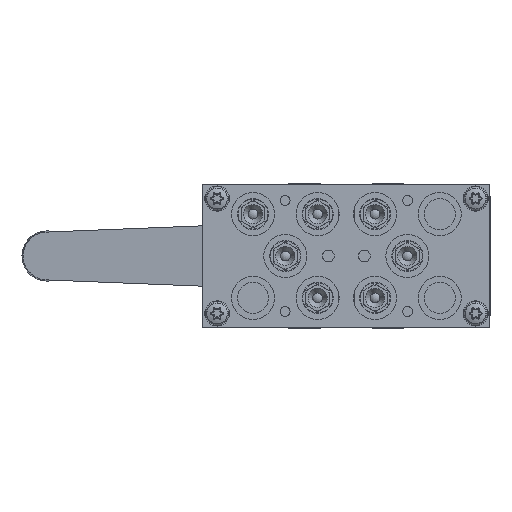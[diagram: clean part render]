
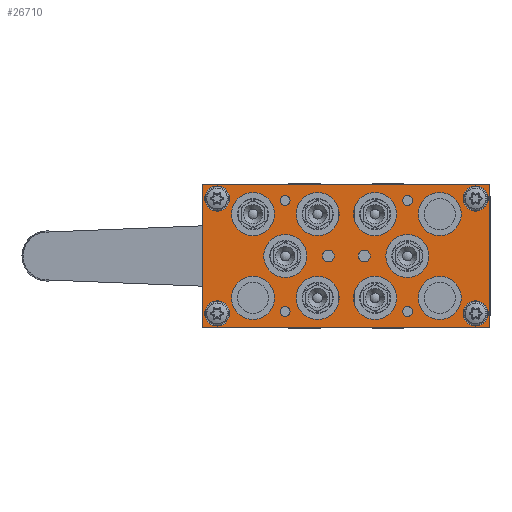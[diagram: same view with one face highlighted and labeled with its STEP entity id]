
A CAD part, left-side view. The second image highlights one B-rep face of the part: STEP entity #26710.
In plain terms, the highlighted planar face has unit normal (-1, 0, 0) as drawn and (0, 0, 1) by its records, which use the part's own axes.
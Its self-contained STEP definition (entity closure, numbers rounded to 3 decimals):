
#2523=LINE('',#63669,#3590);
#2527=LINE('',#63680,#3594);
#2531=LINE('',#63825,#3598);
#2532=LINE('',#63826,#3599);
#3590=VECTOR('',#33106,1000.);
#3594=VECTOR('',#33114,1000.);
#3598=VECTOR('',#33274,1000.);
#3599=VECTOR('',#33275,1000.);
#4036=PLANE('',#28617);
#9184=ORIENTED_EDGE('',*,*,#12024,.F.);
#9185=ORIENTED_EDGE('',*,*,#12025,.F.);
#9186=ORIENTED_EDGE('',*,*,#12026,.F.);
#9187=ORIENTED_EDGE('',*,*,#12027,.F.);
#9188=ORIENTED_EDGE('',*,*,#12028,.F.);
#9189=ORIENTED_EDGE('',*,*,#12029,.F.);
#9190=ORIENTED_EDGE('',*,*,#12030,.T.);
#9191=ORIENTED_EDGE('',*,*,#12031,.T.);
#9192=ORIENTED_EDGE('',*,*,#12032,.T.);
#9193=ORIENTED_EDGE('',*,*,#12033,.T.);
#9194=ORIENTED_EDGE('',*,*,#12034,.T.);
#9195=ORIENTED_EDGE('',*,*,#12035,.T.);
#9196=ORIENTED_EDGE('',*,*,#12036,.T.);
#9197=ORIENTED_EDGE('',*,*,#11966,.T.);
#9198=ORIENTED_EDGE('',*,*,#12037,.T.);
#9199=ORIENTED_EDGE('',*,*,#11971,.T.);
#9200=ORIENTED_EDGE('',*,*,#12038,.T.);
#9201=ORIENTED_EDGE('',*,*,#12039,.T.);
#9202=ORIENTED_EDGE('',*,*,#12040,.T.);
#9203=ORIENTED_EDGE('',*,*,#12041,.T.);
#9204=ORIENTED_EDGE('',*,*,#12042,.T.);
#9205=ORIENTED_EDGE('',*,*,#12043,.T.);
#9206=ORIENTED_EDGE('',*,*,#12044,.T.);
#9207=ORIENTED_EDGE('',*,*,#12045,.T.);
#11966=EDGE_CURVE('',#13704,#13703,#2523,.T.);
#11971=EDGE_CURVE('',#13709,#13708,#2527,.T.);
#12024=EDGE_CURVE('',#13759,#13759,#14612,.T.);
#12025=EDGE_CURVE('',#13760,#13760,#14613,.T.);
#12026=EDGE_CURVE('',#13761,#13761,#14614,.T.);
#12027=EDGE_CURVE('',#13762,#13762,#14615,.T.);
#12028=EDGE_CURVE('',#13763,#13763,#14616,.T.);
#12029=EDGE_CURVE('',#13764,#13764,#14617,.T.);
#12030=EDGE_CURVE('',#13765,#13765,#14618,.T.);
#12031=EDGE_CURVE('',#13766,#13766,#14619,.T.);
#12032=EDGE_CURVE('',#13767,#13767,#14620,.T.);
#12033=EDGE_CURVE('',#13768,#13768,#14621,.T.);
#12034=EDGE_CURVE('',#13769,#13769,#14622,.T.);
#12035=EDGE_CURVE('',#13770,#13770,#14623,.T.);
#12036=EDGE_CURVE('',#13771,#13771,#14624,.T.);
#12037=EDGE_CURVE('',#13703,#13709,#2531,.T.);
#12038=EDGE_CURVE('',#13708,#13704,#2532,.T.);
#12039=EDGE_CURVE('',#13772,#13772,#14625,.T.);
#12040=EDGE_CURVE('',#13773,#13773,#14626,.T.);
#12041=EDGE_CURVE('',#13774,#13774,#14627,.T.);
#12042=EDGE_CURVE('',#13775,#13775,#14628,.T.);
#12043=EDGE_CURVE('',#13776,#13776,#14629,.T.);
#12044=EDGE_CURVE('',#13777,#13777,#14630,.T.);
#12045=EDGE_CURVE('',#13778,#13778,#14631,.T.);
#13703=VERTEX_POINT('',#63668);
#13704=VERTEX_POINT('',#63670);
#13708=VERTEX_POINT('',#63679);
#13709=VERTEX_POINT('',#63681);
#13759=VERTEX_POINT('',#63800);
#13760=VERTEX_POINT('',#63802);
#13761=VERTEX_POINT('',#63804);
#13762=VERTEX_POINT('',#63806);
#13763=VERTEX_POINT('',#63808);
#13764=VERTEX_POINT('',#63810);
#13765=VERTEX_POINT('',#63812);
#13766=VERTEX_POINT('',#63814);
#13767=VERTEX_POINT('',#63816);
#13768=VERTEX_POINT('',#63818);
#13769=VERTEX_POINT('',#63820);
#13770=VERTEX_POINT('',#63822);
#13771=VERTEX_POINT('',#63824);
#13772=VERTEX_POINT('',#63828);
#13773=VERTEX_POINT('',#63830);
#13774=VERTEX_POINT('',#63832);
#13775=VERTEX_POINT('',#63834);
#13776=VERTEX_POINT('',#63836);
#13777=VERTEX_POINT('',#63838);
#13778=VERTEX_POINT('',#63840);
#14612=CIRCLE('',#28618,2.067);
#14613=CIRCLE('',#28619,2.067);
#14614=CIRCLE('',#28620,2.067);
#14615=CIRCLE('',#28621,2.067);
#14616=CIRCLE('',#28622,2.459);
#14617=CIRCLE('',#28623,2.459);
#14618=CIRCLE('',#28624,9.);
#14619=CIRCLE('',#28625,9.);
#14620=CIRCLE('',#28626,9.);
#14621=CIRCLE('',#28627,9.);
#14622=CIRCLE('',#28628,9.);
#14623=CIRCLE('',#28629,5.25);
#14624=CIRCLE('',#28630,5.25);
#14625=CIRCLE('',#28631,5.25);
#14626=CIRCLE('',#28632,9.);
#14627=CIRCLE('',#28633,9.);
#14628=CIRCLE('',#28634,9.);
#14629=CIRCLE('',#28635,9.);
#14630=CIRCLE('',#28636,9.);
#14631=CIRCLE('',#28637,5.25);
#16035=EDGE_LOOP('',(#9184));
#16036=EDGE_LOOP('',(#9185));
#16037=EDGE_LOOP('',(#9186));
#16038=EDGE_LOOP('',(#9187));
#16039=EDGE_LOOP('',(#9188));
#16040=EDGE_LOOP('',(#9189));
#16041=EDGE_LOOP('',(#9190));
#16042=EDGE_LOOP('',(#9191));
#16043=EDGE_LOOP('',(#9192));
#16044=EDGE_LOOP('',(#9193));
#16045=EDGE_LOOP('',(#9194));
#16046=EDGE_LOOP('',(#9195));
#16047=EDGE_LOOP('',(#9196));
#16048=EDGE_LOOP('',(#9197,#9198,#9199,#9200));
#16049=EDGE_LOOP('',(#9201));
#16050=EDGE_LOOP('',(#9202));
#16051=EDGE_LOOP('',(#9203));
#16052=EDGE_LOOP('',(#9204));
#16053=EDGE_LOOP('',(#9205));
#16054=EDGE_LOOP('',(#9206));
#16055=EDGE_LOOP('',(#9207));
#17576=FACE_BOUND('',#16035,.T.);
#17577=FACE_BOUND('',#16036,.T.);
#17578=FACE_BOUND('',#16037,.T.);
#17579=FACE_BOUND('',#16038,.T.);
#17580=FACE_BOUND('',#16039,.T.);
#17581=FACE_BOUND('',#16040,.T.);
#17582=FACE_BOUND('',#16041,.T.);
#17583=FACE_BOUND('',#16042,.T.);
#17584=FACE_BOUND('',#16043,.T.);
#17585=FACE_BOUND('',#16044,.T.);
#17586=FACE_BOUND('',#16045,.T.);
#17587=FACE_BOUND('',#16046,.T.);
#17588=FACE_BOUND('',#16047,.T.);
#17589=FACE_BOUND('',#16048,.T.);
#17590=FACE_BOUND('',#16049,.T.);
#17591=FACE_BOUND('',#16050,.T.);
#17592=FACE_BOUND('',#16051,.T.);
#17593=FACE_BOUND('',#16052,.T.);
#17594=FACE_BOUND('',#16053,.T.);
#17595=FACE_BOUND('',#16054,.T.);
#17596=FACE_BOUND('',#16055,.T.);
#26710=ADVANCED_FACE('',(#17576,#17577,#17578,#17579,#17580,#17581,#17582,
#17583,#17584,#17585,#17586,#17587,#17588,#17589,#17590,#17591,#17592,#17593,
#17594,#17595,#17596),#4036,.T.);
#28617=AXIS2_PLACEMENT_3D('',#63798,#33246,#33247);
#28618=AXIS2_PLACEMENT_3D('',#63799,#33248,#33249);
#28619=AXIS2_PLACEMENT_3D('',#63801,#33250,#33251);
#28620=AXIS2_PLACEMENT_3D('',#63803,#33252,#33253);
#28621=AXIS2_PLACEMENT_3D('',#63805,#33254,#33255);
#28622=AXIS2_PLACEMENT_3D('',#63807,#33256,#33257);
#28623=AXIS2_PLACEMENT_3D('',#63809,#33258,#33259);
#28624=AXIS2_PLACEMENT_3D('',#63811,#33260,#33261);
#28625=AXIS2_PLACEMENT_3D('',#63813,#33262,#33263);
#28626=AXIS2_PLACEMENT_3D('',#63815,#33264,#33265);
#28627=AXIS2_PLACEMENT_3D('',#63817,#33266,#33267);
#28628=AXIS2_PLACEMENT_3D('',#63819,#33268,#33269);
#28629=AXIS2_PLACEMENT_3D('',#63821,#33270,#33271);
#28630=AXIS2_PLACEMENT_3D('',#63823,#33272,#33273);
#28631=AXIS2_PLACEMENT_3D('',#63827,#33276,#33277);
#28632=AXIS2_PLACEMENT_3D('',#63829,#33278,#33279);
#28633=AXIS2_PLACEMENT_3D('',#63831,#33280,#33281);
#28634=AXIS2_PLACEMENT_3D('',#63833,#33282,#33283);
#28635=AXIS2_PLACEMENT_3D('',#63835,#33284,#33285);
#28636=AXIS2_PLACEMENT_3D('',#63837,#33286,#33287);
#28637=AXIS2_PLACEMENT_3D('',#63839,#33288,#33289);
#33106=DIRECTION('',(-1.,0.,0.));
#33114=DIRECTION('',(1.,0.,0.));
#33246=DIRECTION('',(0.,0.,1.));
#33247=DIRECTION('',(1.,0.,0.));
#33248=DIRECTION('',(0.,0.,1.));
#33249=DIRECTION('',(1.,0.,0.));
#33250=DIRECTION('',(0.,0.,1.));
#33251=DIRECTION('',(1.,0.,0.));
#33252=DIRECTION('',(0.,0.,1.));
#33253=DIRECTION('',(1.,0.,0.));
#33254=DIRECTION('',(0.,0.,1.));
#33255=DIRECTION('',(1.,0.,0.));
#33256=DIRECTION('',(0.,0.,1.));
#33257=DIRECTION('',(1.,0.,0.));
#33258=DIRECTION('',(0.,0.,1.));
#33259=DIRECTION('',(1.,0.,0.));
#33260=DIRECTION('',(0.,0.,-1.));
#33261=DIRECTION('',(1.,0.,0.));
#33262=DIRECTION('',(0.,0.,-1.));
#33263=DIRECTION('',(1.,0.,0.));
#33264=DIRECTION('',(0.,0.,-1.));
#33265=DIRECTION('',(1.,0.,0.));
#33266=DIRECTION('',(0.,0.,-1.));
#33267=DIRECTION('',(1.,0.,0.));
#33268=DIRECTION('',(0.,0.,-1.));
#33269=DIRECTION('',(1.,0.,0.));
#33270=DIRECTION('',(0.,0.,-1.));
#33271=DIRECTION('',(1.,0.,0.));
#33272=DIRECTION('',(0.,0.,-1.));
#33273=DIRECTION('',(1.,0.,0.));
#33274=DIRECTION('',(0.,-1.,0.));
#33275=DIRECTION('',(0.,1.,0.));
#33276=DIRECTION('',(0.,0.,-1.));
#33277=DIRECTION('',(1.,0.,0.));
#33278=DIRECTION('',(0.,0.,-1.));
#33279=DIRECTION('',(1.,0.,0.));
#33280=DIRECTION('',(0.,0.,-1.));
#33281=DIRECTION('',(1.,0.,0.));
#33282=DIRECTION('',(0.,0.,-1.));
#33283=DIRECTION('',(1.,0.,0.));
#33284=DIRECTION('',(0.,0.,-1.));
#33285=DIRECTION('',(1.,0.,0.));
#33286=DIRECTION('',(0.,0.,-1.));
#33287=DIRECTION('',(1.,0.,0.));
#33288=DIRECTION('',(0.,0.,-1.));
#33289=DIRECTION('',(1.,0.,0.));
#63668=CARTESIAN_POINT('',(-60.,30.,15.));
#63669=CARTESIAN_POINT('',(60.,30.,15.));
#63670=CARTESIAN_POINT('',(60.,30.,15.));
#63679=CARTESIAN_POINT('',(60.,-30.,15.));
#63680=CARTESIAN_POINT('',(-60.,-30.,15.));
#63681=CARTESIAN_POINT('',(-60.,-30.,15.));
#63798=CARTESIAN_POINT('',(-60.,30.,15.));
#63799=CARTESIAN_POINT('',(25.6,23.2,15.));
#63800=CARTESIAN_POINT('',(27.667,23.2,15.));
#63801=CARTESIAN_POINT('',(-25.6,23.2,15.));
#63802=CARTESIAN_POINT('',(-23.533,23.2,15.));
#63803=CARTESIAN_POINT('',(-25.6,-23.2,15.));
#63804=CARTESIAN_POINT('',(-23.533,-23.2,15.));
#63805=CARTESIAN_POINT('',(25.6,-23.2,15.));
#63806=CARTESIAN_POINT('',(27.667,-23.2,15.));
#63807=CARTESIAN_POINT('',(7.5,0.,15.));
#63808=CARTESIAN_POINT('',(9.959,0.,15.));
#63809=CARTESIAN_POINT('',(-7.5,0.,15.));
#63810=CARTESIAN_POINT('',(-5.041,0.,15.));
#63811=CARTESIAN_POINT('',(25.5,0.,15.));
#63812=CARTESIAN_POINT('',(34.5,0.,15.));
#63813=CARTESIAN_POINT('',(39.,17.5,15.));
#63814=CARTESIAN_POINT('',(48.,17.5,15.));
#63815=CARTESIAN_POINT('',(-39.,-17.5,15.));
#63816=CARTESIAN_POINT('',(-30.,-17.5,15.));
#63817=CARTESIAN_POINT('',(-12.,-17.5,15.));
#63818=CARTESIAN_POINT('',(-3.,-17.5,15.));
#63819=CARTESIAN_POINT('',(12.,17.5,15.));
#63820=CARTESIAN_POINT('',(21.,17.5,15.));
#63821=CARTESIAN_POINT('',(-54.,-24.,15.));
#63822=CARTESIAN_POINT('',(-48.75,-24.,15.));
#63823=CARTESIAN_POINT('',(54.,24.,15.));
#63824=CARTESIAN_POINT('',(59.25,24.,15.));
#63825=CARTESIAN_POINT('',(-60.,30.,15.));
#63826=CARTESIAN_POINT('',(60.,-30.,15.));
#63827=CARTESIAN_POINT('',(54.,-24.,15.));
#63828=CARTESIAN_POINT('',(59.25,-24.,15.));
#63829=CARTESIAN_POINT('',(-12.,17.5,15.));
#63830=CARTESIAN_POINT('',(-3.,17.5,15.));
#63831=CARTESIAN_POINT('',(12.,-17.5,15.));
#63832=CARTESIAN_POINT('',(21.,-17.5,15.));
#63833=CARTESIAN_POINT('',(-39.,17.5,15.));
#63834=CARTESIAN_POINT('',(-30.,17.5,15.));
#63835=CARTESIAN_POINT('',(39.,-17.5,15.));
#63836=CARTESIAN_POINT('',(48.,-17.5,15.));
#63837=CARTESIAN_POINT('',(-25.5,0.,15.));
#63838=CARTESIAN_POINT('',(-16.5,0.,15.));
#63839=CARTESIAN_POINT('',(-54.,24.,15.));
#63840=CARTESIAN_POINT('',(-48.75,24.,15.));
